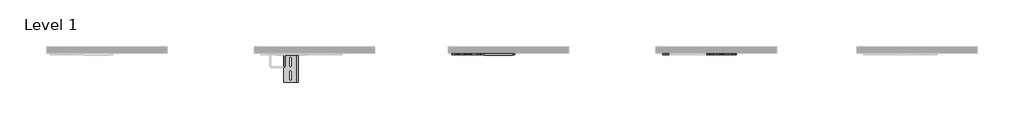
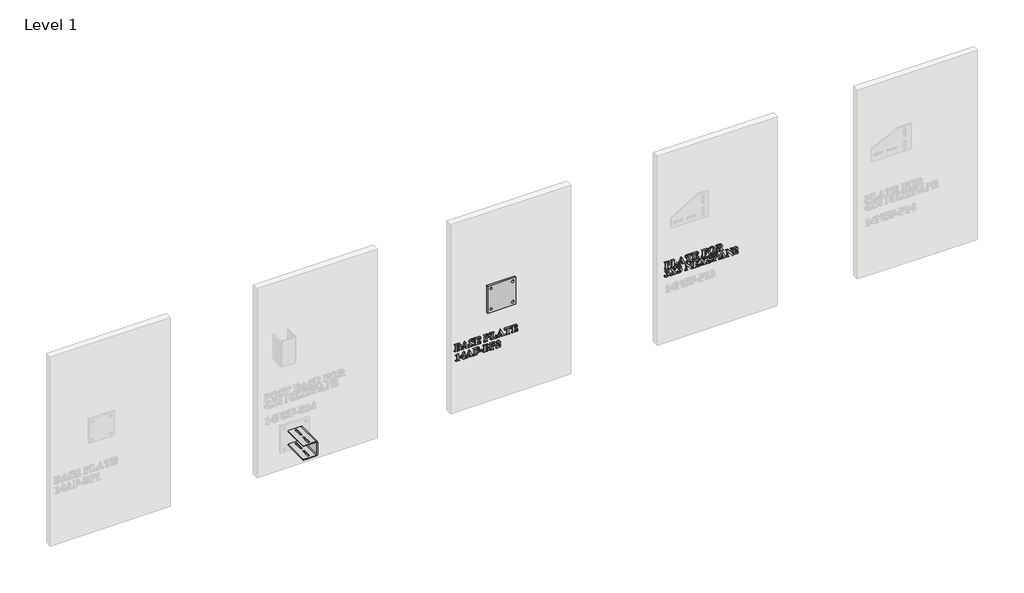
# One storey, part 13 of 21: 5 proxies.
"""IFC4 building model written with IfcOpenShell, lengths in millimetres."""

from ifc_helpers import new_model, si_unit, frame, origin, place, context, project, spatial, polyline, outline, extrude, transform, mapped, element, save
from components import generic_models_8fb2d385, part_bent_plate_f_part_bent_plate_f_7085e637

model = new_model("IFC4")

# Units and contexts
model_context = context("Model", 3, world=origin())
ifc_project = project(units=[si_unit("LENGTHUNIT", "METRE", prefix="MILLI")], contexts=[model_context])

# Site, building, storey
site = spatial("IfcSite", under=ifc_project)
building = spatial("IfcBuilding", under=site)
storey = spatial("IfcBuildingStorey", under=building, Name="Level 1", Elevation=0.0)

# Proxies
placement = place(None, origin())
element("IfcBuildingElementProxy", 1, Name="2\"\" Arial", ObjectType="2\"\" Arial", at=placement, inside=storey, context=model_context, shape_type="SweptSolid", body=[
    extrude(outline(polyline([(624.2127681, 20732.7890158), (625.1268914, 20746.043803), (630.022991, 20755.1781105), (638.6586857, 20758.4952699), (648.6032388, 20753.4468164), (652.5782899, 20736.7917676), (652.5782899, 20713.2877195), (650.8054448, 20713.2877195), (650.2029545, 20718.0730163), (648.5963136, 20719.8666369), (643.7140644, 20720.3791), (609.1435847, 20720.3791), (604.2751858, 20719.8666369), (602.6685449, 20718.0937918), (602.0522042, 20713.2877195), (600.2793591, 20713.2877195), (600.2793591, 20739.8803962), (602.0522042, 20739.8803962), (602.6546946, 20735.1089498), (604.2613354, 20733.3014788), (609.1435847, 20732.7890158), (624.2127681, 20732.7890158)]), holes=[polyline([(649.9190223, 20732.7890158), (649.9190223, 20734.5757112), (647.1628021, 20743.1975556), (638.4786311, 20746.0853541), (629.6421063, 20743.1975556), (626.7889337, 20734.9773714), (626.8720358, 20732.7890158), (649.9190223, 20732.7890158)])]), frame((0.0, -15490.3579358, 0.0), z_axis=(0.0, 1.0, 0.0), x_axis=(0.0, 0.0, 1.0)), (0.0, 0.0, 1.0), 12.7),
    extrude(outline(polyline([(619.7806553, 20809.9077782), (619.7806553, 20808.1349331), (610.1269597, 20804.3399365), (605.3416629, 20799.5892656), (603.8250493, 20792.7194908), (603.8250493, 20788.4120312), (604.1713081, 20783.7998638), (605.7848742, 20781.999318), (610.8333277, 20781.5422564), (643.7140644, 20781.5422564), (648.298531, 20781.9162159), (650.0436754, 20783.3289518), (650.8054448, 20786.597635), (650.8054448, 20788.6336368), (652.5782899, 20788.6336368), (652.5782899, 20762.0409601), (650.8054448, 20762.0409601), (650.8054448, 20763.7168528), (650.0990768, 20767.0686381), (648.4439597, 20768.7237552), (643.7140644, 20769.1323406), (609.1435847, 20769.1323406), (604.559118, 20768.7306804), (602.8139736, 20767.2348423), (602.0522042, 20763.7168528), (602.0522042, 20762.0409601), (600.2793591, 20762.0409601), (600.2793591, 20808.1349331), (619.7806553, 20809.9077782)])), frame((0.0, -15490.3579358, 0.0), z_axis=(0.0, 1.0, 0.0), x_axis=(0.0, 0.0, 1.0)), (0.0, 0.0, 1.0), 12.7),
    extrude(outline(polyline([(615.3485426, 20844.8660677), (608.7003734, 20847.7884921), (604.559118, 20849.1735273), (602.869375, 20848.3286558), (602.0522042, 20843.0101205), (600.2793591, 20843.0101205), (600.2793591, 20868.4116669), (602.0522042, 20868.4116669), (603.4095388, 20864.7136228), (610.9025794, 20860.28151), (653.4647125, 20840.6278599), (612.066009, 20821.8052309), (604.3375124, 20817.3384922), (602.0522042, 20812.7193997), (600.2793591, 20812.7193997), (600.2793591, 20830.4894019), (602.0522042, 20830.4894019), (602.9386268, 20825.3647715), (606.0272554, 20823.5919264), (610.0300072, 20824.6722539), (615.3485426, 20827.0822152), (615.3485426, 20844.8660677)]), holes=[polyline([(618.8942328, 20843.3148283), (618.8942328, 20828.6888561), (635.2376487, 20836.0987946), (618.8942328, 20843.3148283)])]), frame((0.0, -15490.3579358, 0.0), z_axis=(0.0, 1.0, 0.0), x_axis=(0.0, 0.0, 1.0)), (0.0, 0.0, 1.0), 12.7),
    extrude(outline(polyline([(652.5782899, 20918.05133), (652.5782899, 20871.9573571), (637.5091065, 20871.9573571), (637.5091065, 20873.7302022), (646.7195908, 20877.8299065), (649.0325997, 20885.2536955), (649.0325997, 20888.7993857), (609.1435847, 20888.7993857), (604.559118, 20888.3977255), (602.8139736, 20886.8741867), (602.0522042, 20883.3700475), (602.0522042, 20881.7080052), (600.2793591, 20881.7080052), (600.2793591, 20908.3006819), (602.0522042, 20908.3006819), (602.0522042, 20906.65249), (602.7585722, 20903.2868543), (604.4136893, 20901.6317372), (609.1435847, 20901.2093015), (649.0325997, 20901.2093015), (649.0325997, 20904.7549917), (648.3123814, 20909.6857172), (644.7874667, 20913.646918), (637.5091065, 20916.2784849), (637.5091065, 20918.05133), (652.5782899, 20918.05133)])), frame((0.0, -15490.3579358, 0.0), z_axis=(0.0, 1.0, 0.0), x_axis=(0.0, 0.0, 1.0)), (0.0, 0.0, 1.0), 12.7),
    extrude(outline(polyline([(649.0325997, 20942.8711616), (649.0325997, 20947.3032744), (648.3400821, 20955.3364788), (644.7320653, 20961.0289737), (636.6226839, 20964.145303), (636.6226839, 20965.9181481), (652.5782899, 20965.9181481), (652.5782899, 20923.3698654), (650.8054448, 20923.3698654), (650.8054448, 20925.045758), (649.7805187, 20928.896156), (647.827619, 20930.2811912), (643.7140644, 20930.4612458), (609.1435847, 20930.4612458), (604.559118, 20930.0595856), (602.8139736, 20928.5637475), (602.0522042, 20925.045758), (602.0522042, 20923.3698654), (600.2793591, 20923.3698654), (600.2793591, 20967.1785302), (616.8859317, 20968.1203541), (606.4427659, 20962.0054235), (602.9386268, 20950.6827604), (602.9386268, 20947.6633836), (603.5549675, 20944.5470543), (605.1339076, 20943.2243456), (610.4039667, 20942.8711616), (625.0991907, 20942.8711616), (624.0950401, 20947.878064), (620.1753904, 20950.9112912), (612.6892749, 20952.6218097), (612.6892749, 20954.3946548), (640.1683741, 20954.3946548), (640.1683741, 20952.6218097), (630.9024884, 20950.1148959), (627.7584584, 20942.8711616), (649.0325997, 20942.8711616)])), frame((0.0, -15490.3579358, 0.0), z_axis=(0.0, 1.0, 0.0), x_axis=(0.0, 0.0, 1.0)), (0.0, 0.0, 1.0), 12.7),
    extrude(outline(polyline([(649.0325997, 21014.6713887), (649.0325997, 21019.1035015), (648.4370346, 21027.6630193), (644.7251401, 21034.0757325), (636.6226839, 21036.8319526), (636.6226839, 21038.6047977), (652.5782899, 21038.6047977), (652.5782899, 20995.1700924), (650.8054448, 20995.1700924), (650.8054448, 20996.8459851), (650.0990768, 21000.1977704), (648.4439597, 21001.8528875), (643.7140644, 21002.2614729), (609.1435847, 21002.2614729), (604.559118, 21001.8598127), (602.8139736, 21000.3639746), (602.0522042, 20996.8459851), (602.0522042, 20995.1700924), (600.2793591, 20995.1700924), (600.2793591, 21021.7627691), (602.0522042, 21021.7627691), (602.0522042, 21020.1007268), (602.7585722, 21016.7558667), (604.4136893, 21015.0938244), (609.1435847, 21014.6713887), (625.0991907, 21014.6713887), (625.0991907, 21016.4442338), (622.6823042, 21023.3555597), (612.6892749, 21027.0813045), (612.6892749, 21028.8541496), (641.0547967, 21028.8541496), (641.0547967, 21027.0813045), (633.6725588, 21025.2253572), (629.7944602, 21021.7419936), (628.6448809, 21016.4442338), (628.6448809, 21014.6713887), (649.0325997, 21014.6713887)])), frame((0.0, -15490.3579358, 0.0), z_axis=(0.0, 1.0, 0.0), x_axis=(0.0, 0.0, 1.0)), (0.0, 0.0, 1.0), 12.7),
    extrude(outline(polyline([(653.4647125, 21071.0561735), (651.8788471, 21060.514324), (646.1794271, 21051.7695577), (637.4606302, 21045.8848892), (626.8166344, 21043.923333), (617.1733265, 21045.4295589), (608.9358294, 21049.9482364), (601.7786598, 21059.1656459), (599.3929366, 21071.5547862), (601.8929252, 21083.9127631), (609.392891, 21093.1197849), (626.8581854, 21098.8815315), (637.4969874, 21096.9494074), (646.2002026, 21091.1530349), (651.884041, 21082.2645712), (653.4647125, 21071.0561735)]), holes=[polyline([(650.8054448, 21071.5132351), (648.6863409, 21078.1267784), (641.4356814, 21082.8497486), (625.9440622, 21084.6987706), (611.8444034, 21082.8843745), (603.9774032, 21077.8151455), (602.0522042, 21071.4439833), (606.5120177, 21062.6213088), (626.2487699, 21058.1060939), (643.4924587, 21061.0285183), (648.9771983, 21065.4502433), (650.8054448, 21071.5132351)])]), frame((0.0, -15490.3579358, 0.0), z_axis=(0.0, 1.0, 0.0), x_axis=(0.0, 0.0, 1.0)), (0.0, 0.0, 1.0), 12.7),
    extrude(outline(polyline([(624.2127681, 21122.8149406), (624.2127681, 21126.249828), (600.2793591, 21143.0364551), (600.2793591, 21159.1582654), (602.0522042, 21159.1582654), (603.3956884, 21155.8895822), (607.7723998, 21152.7455522), (625.4592998, 21140.3356364), (628.9911397, 21147.2885133), (638.395529, 21151.1804624), (646.5326111, 21148.417317), (651.2902072, 21141.2843855), (652.5782899, 21127.4825093), (652.5782899, 21103.3136443), (650.8054448, 21103.3136443), (650.2029545, 21108.0989411), (648.5963136, 21109.8925617), (643.7140644, 21110.4050248), (609.1435847, 21110.4050248), (604.2751858, 21109.8925617), (602.6685449, 21108.1197166), (602.0522042, 21103.3136443), (600.2793591, 21103.3136443), (600.2793591, 21129.906321), (602.0522042, 21129.906321), (602.6546946, 21125.1210242), (604.2613354, 21123.3274036), (609.1435847, 21122.8149406), (624.2127681, 21122.8149406)]), holes=[polyline([(649.9190223, 21122.8149406), (649.9190223, 21126.9423456), (647.0450741, 21135.9727754), (638.160073, 21138.7705466), (631.4288018, 21137.2470078), (627.862336, 21133.0572762), (626.8720358, 21125.0171466), (626.8720358, 21122.8149406), (649.9190223, 21122.8149406)])]), frame((0.0, -15490.3579358, 0.0), z_axis=(0.0, 1.0, 0.0), x_axis=(0.0, 0.0, 1.0)), (0.0, 0.0, 1.0), 12.7),
    extrude(outline(polyline([(564.5485426, 20722.1519451), (558.3782106, 20734.0424727), (548.6206373, 20738.1075511), (542.8796662, 20736.0022975), (540.6151335, 20730.9607692), (543.7314628, 20723.7031846), (547.1524999, 20719.20182), (547.706514, 20716.7364573), (546.2176011, 20713.7101553), (542.6234346, 20712.401297), (537.9004645, 20714.6589044), (535.2965982, 20724.6034575), (536.8114805, 20733.779316), (541.3561274, 20740.8914719), (548.0648919, 20745.4517005), (556.0721269, 20746.9717767), (564.6177943, 20744.1324544), (570.3518402, 20735.8914947), (574.5554222, 20742.2765072), (579.5207736, 20744.312509), (586.4182491, 20740.6767915), (589.3683741, 20731.4455316), (586.9237869, 20721.4940533), (579.105263, 20715.0605646), (584.0498388, 20724.4511036), (581.6883537, 20730.39983), (576.0304847, 20732.7890158), (571.3282901, 20731.5078582), (567.8795523, 20728.4677058), (564.5485426, 20722.1519451)])), frame((0.0, -15490.3579358, 0.0), z_axis=(0.0, 1.0, 0.0), x_axis=(0.0, 0.0, 1.0)), (0.0, 0.0, 1.0), 12.7),
    extrude(outline(polyline([(566.5845444, 20784.5062318), (578.4681468, 20793.9937232), (584.2021927, 20799.0075508), (586.1481672, 20801.9715262), (586.7091065, 20805.6280193), (588.4819516, 20805.6280193), (588.4819516, 20786.1959748), (586.7091065, 20786.1959748), (586.2243441, 20789.6585629), (584.88086, 20791.3760066), (583.0110624, 20791.9715718), (575.9473826, 20787.7333639), (569.5069687, 20782.5810328), (579.146814, 20776.2514217), (584.3406962, 20773.3289974), (586.0304392, 20774.2154199), (586.7091065, 20778.6336823), (588.4819516, 20778.6336823), (588.4819516, 20753.0936324), (586.7091065, 20753.0936324), (585.9334867, 20755.8637029), (584.2021927, 20757.8997047), (579.0775623, 20761.6392999), (559.4377625, 20774.5478284), (546.8616425, 20764.4786222), (539.7425613, 20757.2764389), (537.9558659, 20751.8886518), (536.1830208, 20751.8886518), (536.1830208, 20772.2348195), (537.9558659, 20772.2348195), (538.1774715, 20768.9245853), (539.4655543, 20766.1891407), (541.4046036, 20765.2680922), (547.000146, 20768.8414832), (556.5291885, 20776.459177), (545.781315, 20783.5228568), (540.4627797, 20786.4868322), (538.8422884, 20785.6004096), (537.9558659, 20781.6807599), (536.1830208, 20781.6807599), (536.1830208, 20806.9715034), (537.9558659, 20806.9715034), (539.2993501, 20803.3704118), (545.6428115, 20798.2596318), (566.5845444, 20784.5062318)])), frame((0.0, -15490.3579358, 0.0), z_axis=(0.0, 1.0, 0.0), x_axis=(0.0, 0.0, 1.0)), (0.0, 0.0, 1.0), 12.7),
    extrude(outline(polyline([(564.5485426, 20817.8855812), (558.3782106, 20829.7761087), (548.6206373, 20833.8411872), (542.8796662, 20831.7359336), (540.6151335, 20826.6944053), (543.7314628, 20819.4368206), (547.1524999, 20814.9354561), (547.706514, 20812.4700934), (546.2176011, 20809.4437914), (542.6234346, 20808.1349331), (537.9004645, 20810.3925405), (535.2965982, 20820.3370936), (536.8114805, 20829.512952), (541.3561274, 20836.625108), (548.0648919, 20841.1853366), (556.0721269, 20842.7054127), (564.6177943, 20839.8660905), (570.3518402, 20831.6251308), (574.5554222, 20838.0101433), (579.5207736, 20840.0461451), (586.4182491, 20836.4104276), (589.3683741, 20827.1791677), (586.9237869, 20817.2276894), (579.105263, 20810.7942007), (584.0498388, 20820.1847397), (581.6883537, 20826.1334661), (576.0304847, 20828.5226518), (571.3282901, 20827.2414942), (567.8795523, 20824.2013419), (564.5485426, 20817.8855812)])), frame((0.0, -15490.3579358, 0.0), z_axis=(0.0, 1.0, 0.0), x_axis=(0.0, 0.0, 1.0)), (0.0, 0.0, 1.0), 12.7),
    extrude(outline(polyline([(588.4819516, 20886.61103), (588.4819516, 20868.1900612), (586.7091065, 20868.1900612), (586.1066161, 20871.8534795), (582.955661, 20875.5030473), (545.0472463, 20875.5030473), (539.5971326, 20873.9448827), (537.9558659, 20868.4116669), (536.1830208, 20868.4116669), (536.1830208, 20886.140118), (537.9558659, 20885.0459402), (539.4170781, 20880.8700589), (545.0472463, 20879.0487376), (578.4542964, 20879.0487376), (535.2965982, 20912.8712982), (535.2965982, 20914.5056398), (577.8448809, 20914.5056398), (583.2811442, 20915.1635316), (585.5664524, 20916.9987033), (586.7091065, 20921.5970203), (588.4819516, 20921.5970203), (588.4819516, 20903.8685691), (586.7091065, 20903.8685691), (584.4653494, 20909.6995675), (577.8448809, 20910.9599496), (557.4156111, 20910.9599496), (588.4819516, 20886.61103)])), frame((0.0, -15490.3579358, 0.0), z_axis=(0.0, 1.0, 0.0), x_axis=(0.0, 0.0, 1.0)), (0.0, 0.0, 1.0), 12.7),
    extrude(outline(polyline([(584.9362614, 20945.5304293), (584.9362614, 20949.9625421), (584.2437437, 20957.9957465), (580.6357269, 20963.6882413), (572.5263456, 20966.8045706), (572.5263456, 20968.5774157), (588.4819516, 20968.5774157), (588.4819516, 20926.029133), (586.7091065, 20926.029133), (586.7091065, 20927.7050257), (585.6841804, 20931.5554237), (583.7312807, 20932.9404589), (579.617726, 20933.1205135), (545.0472463, 20933.1205135), (540.4627797, 20932.7188533), (538.7176353, 20931.2230152), (537.9558659, 20927.7050257), (537.9558659, 20926.029133), (536.1830208, 20926.029133), (536.1830208, 20969.8377978), (552.7895933, 20970.7796218), (542.3464276, 20964.6646912), (538.8422884, 20953.3420281), (538.8422884, 20950.3226512), (539.4586291, 20947.2063219), (541.0375693, 20945.8836133), (546.3076284, 20945.5304293), (561.0028523, 20945.5304293), (559.9987018, 20950.5373317), (556.079052, 20953.5705589), (548.5929366, 20955.2810774), (548.5929366, 20957.0539225), (576.0720358, 20957.0539225), (576.0720358, 20955.2810774), (566.80615, 20952.7741636), (563.66212, 20945.5304293), (584.9362614, 20945.5304293)])), frame((0.0, -15490.3579358, 0.0), z_axis=(0.0, 1.0, 0.0), x_axis=(0.0, 0.0, 1.0)), (0.0, 0.0, 1.0), 12.7),
    extrude(outline(polyline([(566.5845444, 21008.7711385), (578.4681468, 21018.25863), (584.2021927, 21023.2724575), (586.1481672, 21026.236433), (586.7091065, 21029.892926), (588.4819516, 21029.892926), (588.4819516, 21010.4608815), (586.7091065, 21010.4608815), (586.2243441, 21013.9234696), (584.88086, 21015.6409134), (583.0110624, 21016.2364785), (575.9473826, 21011.9982707), (569.5069687, 21006.8459395), (579.146814, 21000.5163285), (584.3406962, 20997.5939041), (586.0304392, 20998.4803267), (586.7091065, 21002.8985891), (588.4819516, 21002.8985891), (588.4819516, 20977.3585392), (586.7091065, 20977.3585392), (585.9334867, 20980.1286097), (584.2021927, 20982.1646115), (579.0775623, 20985.9042067), (559.4377625, 20998.8127351), (546.8616425, 20988.7435289), (539.7425613, 20981.5413456), (537.9558659, 20976.1535585), (536.1830208, 20976.1535585), (536.1830208, 20996.4997263), (537.9558659, 20996.4997263), (538.1774715, 20993.189492), (539.4655543, 20990.4540474), (541.4046036, 20989.532999), (547.000146, 20993.1063899), (556.5291885, 21000.7240838), (545.781315, 21007.7877635), (540.4627797, 21010.7517389), (538.8422884, 21009.8653164), (537.9558659, 21005.9456666), (536.1830208, 21005.9456666), (536.1830208, 21031.2364102), (537.9558659, 21031.2364102), (539.2993501, 21027.6353186), (545.6428115, 21022.5245385), (566.5845444, 21008.7711385)])), frame((0.0, -15490.3579358, 0.0), z_axis=(0.0, 1.0, 0.0), x_axis=(0.0, 0.0, 1.0)), (0.0, 0.0, 1.0), 12.7),
    extrude(outline(polyline([(589.3683741, 21070.5160097), (589.3683741, 21068.7431646), (586.4320994, 21067.6351364), (585.8226839, 21066.0007948), (587.0622905, 21062.2404241), (588.7589586, 21057.6905834), (589.3683741, 21052.607504), (585.040139, 21040.6754254), (574.548497, 21035.94553), (567.9418789, 21037.5798716), (562.5056156, 21042.2612907), (556.5984403, 21053.1061167), (552.5541373, 21060.8623141), (549.2854542, 21064.1240721), (545.7259136, 21065.1974744), (540.2896503, 21062.5312815), (537.9558659, 21055.3637242), (542.2702507, 21044.511973), (554.7978944, 21037.7183751), (554.7978944, 21035.94553), (535.2965982, 21035.94553), (535.2965982, 21037.7183751), (537.9697162, 21039.5396965), (538.8422884, 21041.6795759), (537.9835666, 21044.7405038), (535.8575375, 21050.28757), (535.2965982, 21054.9759143), (539.9780173, 21068.0367966), (551.1691021, 21073.1752774), (560.2687837, 21070.5575608), (568.7174987, 21057.8706379), (573.2050128, 21048.7294053), (576.7645534, 21044.8097556), (579.8254813, 21043.923333), (584.6246284, 21046.3471447), (586.7091065, 21052.9260621), (582.5747763, 21062.9398669), (571.639923, 21068.7431646), (571.639923, 21070.5160097), (589.3683741, 21070.5160097)])), frame((0.0, -15490.3579358, 0.0), z_axis=(0.0, 1.0, 0.0), x_axis=(0.0, 0.0, 1.0)), (0.0, 0.0, 1.0), 12.7),
    extrude(outline(polyline([(560.1164298, 21096.2222639), (561.030553, 21109.4770512), (565.9266526, 21118.6113586), (574.5623474, 21121.928518), (584.5069004, 21116.8800645), (588.4819516, 21100.2250157), (588.4819516, 21076.7209676), (586.7091065, 21076.7209676), (586.1066161, 21081.5062644), (584.4999753, 21083.299885), (579.617726, 21083.8123481), (545.0472463, 21083.8123481), (540.1788474, 21083.299885), (538.5722066, 21081.5270399), (537.9558659, 21076.7209676), (536.1830208, 21076.7209676), (536.1830208, 21103.3136443), (537.9558659, 21103.3136443), (538.5583562, 21098.5421979), (540.1649971, 21096.7347269), (545.0472463, 21096.2222639), (560.1164298, 21096.2222639)]), holes=[polyline([(585.8226839, 21096.2222639), (585.8226839, 21098.0089593), (583.0664638, 21106.6308037), (574.3822928, 21109.5186022), (565.5457679, 21106.6308037), (562.6925953, 21098.4106195), (562.7756975, 21096.2222639), (585.8226839, 21096.2222639)])]), frame((0.0, -15490.3579358, 0.0), z_axis=(0.0, 1.0, 0.0), x_axis=(0.0, 0.0, 1.0)), (0.0, 0.0, 1.0), 12.7),
    extrude(outline(polyline([(551.2522042, 21156.000385), (544.604035, 21158.9228094), (540.4627797, 21160.3078446), (538.7730367, 21159.4629731), (537.9558659, 21154.1444378), (536.1830208, 21154.1444378), (536.1830208, 21179.5459842), (537.9558659, 21179.5459842), (539.3132004, 21175.8479401), (546.8062411, 21171.4158273), (589.3683741, 21151.7621772), (547.9696707, 21132.9395482), (540.241174, 21128.4728095), (537.9558659, 21123.853717), (536.1830208, 21123.853717), (536.1830208, 21141.6237192), (537.9558659, 21141.6237192), (538.8422884, 21136.4990888), (541.930917, 21134.7262437), (545.9336689, 21135.8065711), (551.2522042, 21138.2165325), (551.2522042, 21156.000385)]), holes=[polyline([(554.7978944, 21154.4491455), (554.7978944, 21139.8231734), (571.1413103, 21147.2331119), (554.7978944, 21154.4491455)])]), frame((0.0, -15490.3579358, 0.0), z_axis=(0.0, 1.0, 0.0), x_axis=(0.0, 0.0, 1.0)), (0.0, 0.0, 1.0), 12.7),
    extrude(outline(polyline([(588.4819516, 21199.5181924), (588.4819516, 21181.0972236), (586.7091065, 21181.0972236), (586.1066161, 21184.7606419), (582.955661, 21188.4102097), (545.0472463, 21188.4102097), (539.5971326, 21186.8520451), (537.9558659, 21181.3188293), (536.1830208, 21181.3188293), (536.1830208, 21199.0472804), (537.9558659, 21197.9531026), (539.4170781, 21193.7772213), (545.0472463, 21191.9558999), (578.4542964, 21191.9558999), (535.2965982, 21225.7784606), (535.2965982, 21227.4128022), (577.8448809, 21227.4128022), (583.2811442, 21228.0706939), (585.5664524, 21229.9058656), (586.7091065, 21234.5041827), (588.4819516, 21234.5041827), (588.4819516, 21216.7757315), (586.7091065, 21216.7757315), (584.4653494, 21222.6067299), (577.8448809, 21223.867112), (557.4156111, 21223.867112), (588.4819516, 21199.5181924)])), frame((0.0, -15490.3579358, 0.0), z_axis=(0.0, 1.0, 0.0), x_axis=(0.0, 0.0, 1.0)), (0.0, 0.0, 1.0), 12.7),
    extrude(outline(polyline([(536.1830208, 21268.5899), (551.2522042, 21270.2103913), (548.1635756, 21268.1120629), (547.1247992, 21266.076061), (546.8200914, 21260.7228998), (546.8200914, 21249.5595158), (566.3906394, 21266.2768912), (576.6260499, 21269.0746624), (582.5609259, 21267.1840892), (587.5470528, 21261.9555812), (589.3683741, 21254.5733433), (585.864235, 21244.5803141), (574.548497, 21239.5595613), (579.0152357, 21243.7285174), (580.5041486, 21249.3102094), (577.8241054, 21255.7852492), (571.0997593, 21258.4375917), (559.7286199, 21255.3351127), (536.1830208, 21237.1634503), (536.1830208, 21268.5899)])), frame((0.0, -15490.3579358, 0.0), z_axis=(0.0, 1.0, 0.0), x_axis=(0.0, 0.0, 1.0)), (0.0, 0.0, 1.0), 12.7),
])
element("IfcBuildingElementProxy", 2, Name="2\"\" Arial", ObjectType="2\"\" Arial", at=placement, inside=storey, context=model_context, shape_type="SweptSolid", body=[
    extrude(outline(polyline([(524.507993, 19146.4385935), (529.2517387, 19156.1061395), (536.059187, 19158.8485093), (542.9012611, 19156.6809292), (547.7350341, 19150.7529783), (549.3555253, 19137.9483275), (549.3555253, 19112.7545364), (547.5826802, 19112.7545364), (546.9801899, 19117.5398332), (545.373549, 19119.3334538), (540.4912997, 19119.8459169), (505.92082, 19119.8459169), (501.0524212, 19119.3334538), (499.4457803, 19117.5606087), (498.8294396, 19112.7545364), (497.0565945, 19112.7545364), (497.0565945, 19139.1117571), (501.6826122, 19155.9122346), (511.3363078, 19160.6213544), (520.3528873, 19156.4800991), (524.507993, 19146.4385935)]), holes=[polyline([(525.4221163, 19132.2558326), (546.6962576, 19132.2558326), (545.5397532, 19140.8707519), (542.0494644, 19144.9981569), (536.1838401, 19146.4385935), (530.28359, 19144.9773814), (526.6963487, 19140.7737994), (525.4221163, 19132.2558326)]), polyline([(522.7628486, 19132.2558326), (521.6548204, 19141.6048205), (517.5689664, 19145.5867969), (510.948498, 19146.4385935), (505.0967241, 19145.1505108), (501.0939722, 19141.4455415), (499.7158621, 19136.161632), (500.7823393, 19133.2392077), (503.9402196, 19132.2558326), (505.879269, 19132.2558326), (522.7628486, 19132.2558326)])]), frame((0.0, -15490.3579358, 0.0), z_axis=(0.0, 1.0, 0.0), x_axis=(0.0, 0.0, 1.0)), (0.0, 0.0, 1.0), 12.7),
    extrude(outline(polyline([(512.1257779, 19195.579644), (505.4776088, 19198.5020684), (501.3363534, 19199.8871036), (499.6466104, 19199.0422321), (498.8294396, 19193.7236968), (497.0565945, 19193.7236968), (497.0565945, 19219.1252432), (498.8294396, 19219.1252432), (500.1867741, 19215.4271991), (507.6798148, 19210.9950863), (550.2419479, 19191.3414362), (508.8432444, 19172.5188072), (501.1147477, 19168.0520685), (498.8294396, 19163.432976), (497.0565945, 19163.432976), (497.0565945, 19181.2029782), (498.8294396, 19181.2029782), (499.7158621, 19176.0783478), (502.8044907, 19174.3055027), (506.8072426, 19175.3858301), (512.1257779, 19177.7957915), (512.1257779, 19195.579644)]), holes=[polyline([(515.6714682, 19194.0284045), (515.6714682, 19179.4024324), (532.014884, 19186.8123709), (515.6714682, 19194.0284045)])]), frame((0.0, -15490.3579358, 0.0), z_axis=(0.0, 1.0, 0.0), x_axis=(0.0, 0.0, 1.0)), (0.0, 0.0, 1.0), 12.7),
    extrude(outline(polyline([(550.2419479, 19258.1278356), (550.2419479, 19256.3549905), (547.3056731, 19255.2469623), (546.6962576, 19253.6126207), (547.9358642, 19249.8522501), (549.6325323, 19245.3024093), (550.2419479, 19240.2193299), (545.9137127, 19228.2872513), (535.4220707, 19223.5573559), (528.8154526, 19225.1916975), (523.3791893, 19229.8731167), (517.472014, 19240.7179426), (513.4277111, 19248.47414), (510.1590279, 19251.735898), (506.5994873, 19252.8093003), (501.163224, 19250.1431075), (498.8294396, 19242.9755501), (503.1438244, 19232.1237989), (515.6714682, 19225.3302011), (515.6714682, 19223.5573559), (496.1701719, 19223.5573559), (496.1701719, 19225.3302011), (498.8432899, 19227.1515224), (499.7158621, 19229.2914019), (498.8571403, 19232.3523297), (496.7311112, 19237.8993959), (496.1701719, 19242.5877402), (500.851591, 19255.6486226), (512.0426758, 19260.7871033), (521.1423574, 19258.1693867), (529.5910724, 19245.4824639), (534.0785866, 19236.3412312), (537.6381271, 19232.4215815), (540.699055, 19231.535159), (545.4982021, 19233.9589706), (547.5826802, 19240.537888), (543.44835, 19250.5516929), (532.5134967, 19256.3549905), (532.5134967, 19258.1278356), (550.2419479, 19258.1278356)])), frame((0.0, -15490.3579358, 0.0), z_axis=(0.0, 1.0, 0.0), x_axis=(0.0, 0.0, 1.0)), (0.0, 0.0, 1.0), 12.7),
    extrude(outline(polyline([(545.8098351, 19284.7205123), (545.8098351, 19289.1526251), (545.1173174, 19297.1858295), (541.5093006, 19302.8783244), (533.3999193, 19305.9946537), (533.3999193, 19307.7674988), (549.3555253, 19307.7674988), (549.3555253, 19265.2192161), (547.5826802, 19265.2192161), (547.5826802, 19266.8951087), (546.5577541, 19270.7455067), (544.6048544, 19272.130542), (540.4912997, 19272.3105965), (505.92082, 19272.3105965), (501.3363534, 19271.9089363), (499.591209, 19270.4130983), (498.8294396, 19266.8951087), (498.8294396, 19265.2192161), (497.0565945, 19265.2192161), (497.0565945, 19309.0278809), (513.6631671, 19309.9697048), (503.2200013, 19303.8547742), (499.7158621, 19292.5321111), (499.7158621, 19289.5127343), (500.3322028, 19286.396405), (501.911143, 19285.0736963), (507.1812021, 19284.7205123), (521.876426, 19284.7205123), (520.8722755, 19289.7274147), (516.9526258, 19292.7606419), (509.4665103, 19294.4711605), (509.4665103, 19296.2440056), (536.9456095, 19296.2440056), (536.9456095, 19294.4711605), (527.6797237, 19291.9642467), (524.5356937, 19284.7205123), (545.8098351, 19284.7205123)])), frame((0.0, -15490.3579358, 0.0), z_axis=(0.0, 1.0, 0.0), x_axis=(0.0, 0.0, 1.0)), (0.0, 0.0, 1.0), 12.7),
    extrude(outline(polyline([(520.9900035, 19355.6343168), (521.9041268, 19368.8891041), (526.8002263, 19378.0234116), (535.4359211, 19381.340571), (545.3804741, 19376.2921175), (549.3555253, 19359.6370687), (549.3555253, 19336.1330206), (547.5826802, 19336.1330206), (546.9801899, 19340.9183174), (545.373549, 19342.711938), (540.4912997, 19343.224401), (505.92082, 19343.224401), (501.0524212, 19342.711938), (499.4457803, 19340.9390929), (498.8294396, 19336.1330206), (497.0565945, 19336.1330206), (497.0565945, 19362.7256973), (498.8294396, 19362.7256973), (499.4319299, 19357.9542509), (501.0385708, 19356.1467799), (505.92082, 19355.6343168), (520.9900035, 19355.6343168)]), holes=[polyline([(546.6962576, 19355.6343168), (546.6962576, 19357.4210123), (543.9400375, 19366.0428567), (535.2558665, 19368.9306552), (526.4193417, 19366.0428567), (523.566169, 19357.8226725), (523.6492712, 19355.6343168), (546.6962576, 19355.6343168)])]), frame((0.0, -15490.3579358, 0.0), z_axis=(0.0, 1.0, 0.0), x_axis=(0.0, 0.0, 1.0)), (0.0, 0.0, 1.0), 12.7),
    extrude(outline(polyline([(516.5578907, 19432.7530792), (516.5578907, 19430.9802341), (506.9041951, 19427.1852376), (502.1188983, 19422.4345667), (500.6022847, 19415.5647919), (500.6022847, 19411.2573322), (500.9485435, 19406.6451649), (502.5621096, 19404.8446191), (507.610563, 19404.3875574), (540.4912997, 19404.3875574), (545.0757664, 19404.761517), (546.8209108, 19406.1742529), (547.5826802, 19409.4429361), (547.5826802, 19411.4789379), (549.3555253, 19411.4789379), (549.3555253, 19384.8862612), (547.5826802, 19384.8862612), (547.5826802, 19386.5621538), (546.8763122, 19389.9139391), (545.2211951, 19391.5690563), (540.4912997, 19391.9776416), (505.92082, 19391.9776416), (501.3363534, 19391.5759814), (499.591209, 19390.0801434), (498.8294396, 19386.5621538), (498.8294396, 19384.8862612), (497.0565945, 19384.8862612), (497.0565945, 19430.9802341), (516.5578907, 19432.7530792)])), frame((0.0, -15490.3579358, 0.0), z_axis=(0.0, 1.0, 0.0), x_axis=(0.0, 0.0, 1.0)), (0.0, 0.0, 1.0), 12.7),
    extrude(outline(polyline([(512.1257779, 19467.7113688), (505.4776088, 19470.6337932), (501.3363534, 19472.0188284), (499.6466104, 19471.1739569), (498.8294396, 19465.8554216), (497.0565945, 19465.8554216), (497.0565945, 19491.256968), (498.8294396, 19491.256968), (500.1867741, 19487.5589239), (507.6798148, 19483.1268111), (550.2419479, 19463.473161), (508.8432444, 19444.650532), (501.1147477, 19440.1837933), (498.8294396, 19435.5647008), (497.0565945, 19435.5647008), (497.0565945, 19453.334703), (498.8294396, 19453.334703), (499.7158621, 19448.2100726), (502.8044907, 19446.4372275), (506.8072426, 19447.5175549), (512.1257779, 19449.9275163), (512.1257779, 19467.7113688)]), holes=[polyline([(515.6714682, 19466.1601293), (515.6714682, 19451.5341572), (532.014884, 19458.9440957), (515.6714682, 19466.1601293)])]), frame((0.0, -15490.3579358, 0.0), z_axis=(0.0, 1.0, 0.0), x_axis=(0.0, 0.0, 1.0)), (0.0, 0.0, 1.0), 12.7),
    extrude(outline(polyline([(549.3555253, 19540.8966311), (549.3555253, 19494.8026582), (534.2863418, 19494.8026582), (534.2863418, 19496.5755033), (543.4968262, 19500.6752076), (545.8098351, 19508.0989965), (545.8098351, 19511.6446868), (505.92082, 19511.6446868), (501.3363534, 19511.2430265), (499.591209, 19509.7194878), (498.8294396, 19506.2153486), (498.8294396, 19504.5533063), (497.0565945, 19504.5533063), (497.0565945, 19531.145983), (498.8294396, 19531.145983), (498.8294396, 19529.4977911), (499.5358076, 19526.1321554), (501.1909247, 19524.4770383), (505.92082, 19524.0546025), (545.8098351, 19524.0546025), (545.8098351, 19527.6002928), (545.0896167, 19532.5310182), (541.564702, 19536.492219), (534.2863418, 19539.123786), (534.2863418, 19540.8966311), (549.3555253, 19540.8966311)])), frame((0.0, -15490.3579358, 0.0), z_axis=(0.0, 1.0, 0.0), x_axis=(0.0, 0.0, 1.0)), (0.0, 0.0, 1.0), 12.7),
    extrude(outline(polyline([(545.8098351, 19565.7164627), (545.8098351, 19570.1485755), (545.1173174, 19578.1817799), (541.5093006, 19583.8742747), (533.3999193, 19586.990604), (533.3999193, 19588.7634492), (549.3555253, 19588.7634492), (549.3555253, 19546.2151665), (547.5826802, 19546.2151665), (547.5826802, 19547.8910591), (546.5577541, 19551.7414571), (544.6048544, 19553.1264923), (540.4912997, 19553.3065469), (505.92082, 19553.3065469), (501.3363534, 19552.9048867), (499.591209, 19551.4090486), (498.8294396, 19547.8910591), (498.8294396, 19546.2151665), (497.0565945, 19546.2151665), (497.0565945, 19590.0238312), (513.6631671, 19590.9656552), (503.2200013, 19584.8507246), (499.7158621, 19573.5280615), (499.7158621, 19570.5086846), (500.3322028, 19567.3923553), (501.911143, 19566.0696467), (507.1812021, 19565.7164627), (521.876426, 19565.7164627), (520.8722755, 19570.7233651), (516.9526258, 19573.7565923), (509.4665103, 19575.4671108), (509.4665103, 19577.2399559), (536.9456095, 19577.2399559), (536.9456095, 19575.4671108), (527.6797237, 19572.960197), (524.5356937, 19565.7164627), (545.8098351, 19565.7164627)])), frame((0.0, -15490.3579358, 0.0), z_axis=(0.0, 1.0, 0.0), x_axis=(0.0, 0.0, 1.0)), (0.0, 0.0, 1.0), 12.7),
])
element("IfcBuildingElementProxy", 3, Name="2\"\" Arial", ObjectType="2\"\" Arial", at=placement, inside=storey, context=model_context, shape_type="SweptSolid", body=[
    extrude(outline(polyline([(468.5964659, 19141.5213318), (459.7322403, 19121.7638041), (457.9593952, 19122.428621), (459.1920765, 19126.9853869), (458.5549603, 19129.0629398), (457.0383467, 19130.2956212), (452.6408598, 19130.6280296), (426.0481832, 19130.6280296), (419.9817288, 19130.1086414), (417.9318766, 19128.1211158), (417.1839576, 19121.7638041), (415.4111125, 19121.7638041), (415.4111125, 19150.1293259), (417.1839576, 19148.8966445), (418.0011284, 19144.4229807), (420.106382, 19142.587809), (426.0481832, 19142.1515229), (468.5964659, 19141.5213318)])), frame((0.0, -15490.3579358, 0.0), z_axis=(0.0, 1.0, 0.0), x_axis=(0.0, 0.0, 1.0)), (0.0, 0.0, 1.0), 12.7),
    extrude(outline(polyline([(434.9124087, 19158.9935514), (426.9346057, 19158.9935514), (426.9346057, 19177.6084251), (415.4111125, 19177.6084251), (415.4111125, 19189.1319184), (426.9346057, 19189.1319184), (426.9346057, 19193.5640311), (434.9124087, 19193.5640311), (434.9124087, 19189.1319184), (468.5964659, 19189.1319184), (468.5964659, 19184.0211383), (434.9124087, 19158.9935514)]), holes=[polyline([(434.9124087, 19161.6805198), (456.3389039, 19177.6084251), (434.9124087, 19177.6084251), (434.9124087, 19161.6805198)])]), frame((0.0, -15490.3579358, 0.0), z_axis=(0.0, 1.0, 0.0), x_axis=(0.0, 0.0, 1.0)), (0.0, 0.0, 1.0), 12.7),
    extrude(outline(polyline([(430.4802959, 19229.4087433), (423.8321268, 19232.3311676), (419.6908714, 19233.7162029), (418.0011284, 19232.8713314), (417.1839576, 19227.552796), (415.4111125, 19227.552796), (415.4111125, 19252.9543424), (417.1839576, 19252.9543424), (418.5412921, 19249.2562983), (426.0343328, 19244.8241855), (468.5964659, 19225.1705354), (427.1977624, 19206.3479064), (419.4692657, 19201.8811678), (417.1839576, 19197.2620752), (415.4111125, 19197.2620752), (415.4111125, 19215.0320774), (417.1839576, 19215.0320774), (418.0703801, 19209.907447), (421.1590087, 19208.1346019), (425.1617606, 19209.2149294), (430.4802959, 19211.6248907), (430.4802959, 19229.4087433)]), holes=[polyline([(434.0259862, 19227.8575038), (434.0259862, 19213.2315316), (450.369402, 19220.6414702), (434.0259862, 19227.8575038)])]), frame((0.0, -15490.3579358, 0.0), z_axis=(0.0, 1.0, 0.0), x_axis=(0.0, 0.0, 1.0)), (0.0, 0.0, 1.0), 12.7),
    extrude(outline(polyline([(464.1643531, 19275.1149063), (464.1643531, 19279.5470191), (463.5687879, 19288.1065369), (459.8568935, 19294.5192501), (451.7544373, 19297.2754702), (451.7544373, 19299.0483153), (467.7100433, 19299.0483153), (467.7100433, 19255.6136101), (465.9371982, 19255.6136101), (465.9371982, 19257.2895027), (465.2308302, 19260.641288), (463.5757131, 19262.2964051), (458.8458177, 19262.7049905), (424.275338, 19262.7049905), (419.6908714, 19262.3033303), (417.945727, 19260.8074922), (417.1839576, 19257.2895027), (417.1839576, 19255.6136101), (415.4111125, 19255.6136101), (415.4111125, 19282.2062868), (417.1839576, 19282.2062868), (417.1839576, 19280.5442445), (417.8903256, 19277.1993844), (419.5454427, 19275.5373421), (424.275338, 19275.1149063), (440.2309441, 19275.1149063), (440.2309441, 19276.8877514), (437.8140576, 19283.7990773), (427.8210283, 19287.5248221), (427.8210283, 19289.2976672), (456.1865501, 19289.2976672), (456.1865501, 19287.5248221), (448.8043122, 19285.6688749), (444.9262135, 19282.1855112), (443.7766343, 19276.8877514), (443.7766343, 19275.1149063), (464.1643531, 19275.1149063)])), frame((0.0, -15490.3579358, 0.0), z_axis=(0.0, 1.0, 0.0), x_axis=(0.0, 0.0, 1.0)), (0.0, 0.0, 1.0), 12.7),
    extrude(outline(polyline([(19324.7545695, -15490.3579358), (19302.5940056, -15490.3579358), (19302.5940056, -15477.6579358), (19324.7545695, -15477.6579358), (19324.7545695, -15490.3579358)])), frame((0.0, 0.0, 429.5938734), z_axis=(0.0, 0.0, 1.0), x_axis=(1.0, 0.0, 0.0)), (0.0, 0.0, 1.0), 7.977803),
    extrude(outline(polyline([(442.862511, 19363.757162), (447.6062567, 19373.424708), (454.413705, 19376.1670777), (461.2557791, 19373.9994976), (466.0895521, 19368.0715467), (467.7100433, 19355.2668959), (467.7100433, 19330.0731048), (465.9371982, 19330.0731048), (465.3347079, 19334.8584016), (463.728067, 19336.6520222), (458.8458177, 19337.1644853), (424.275338, 19337.1644853), (419.4069392, 19336.6520222), (417.8002983, 19334.8791771), (417.1839576, 19330.0731048), (415.4111125, 19330.0731048), (415.4111125, 19356.4303255), (420.0371302, 19373.230803), (429.6908258, 19377.9399229), (438.7074053, 19373.7986675), (442.862511, 19363.757162)]), holes=[polyline([(443.7766343, 19349.574401), (465.0507756, 19349.574401), (463.8942712, 19358.1893203), (460.4039824, 19362.3167253), (454.5383581, 19363.757162), (448.638108, 19362.2959498), (445.0508667, 19358.0923678), (443.7766343, 19349.574401)]), polyline([(441.1173666, 19349.574401), (440.0093384, 19358.9233889), (435.9234844, 19362.9053653), (429.303016, 19363.757162), (423.4512421, 19362.4690792), (419.4484902, 19358.7641099), (418.0703801, 19353.4802004), (419.1368573, 19350.5577761), (422.2947376, 19349.574401), (424.233787, 19349.574401), (441.1173666, 19349.574401)])]), frame((0.0, -15490.3579358, 0.0), z_axis=(0.0, 1.0, 0.0), x_axis=(0.0, 0.0, 1.0)), (0.0, 0.0, 1.0), 12.7),
    extrude(outline(polyline([(439.3445215, 19400.9869093), (440.2586448, 19414.2416966), (445.1547443, 19423.376004), (453.7904391, 19426.6931635), (463.7349921, 19421.64471), (467.7100433, 19404.9896612), (467.7100433, 19381.4856131), (465.9371982, 19381.4856131), (465.3347079, 19386.2709098), (463.728067, 19388.0645305), (458.8458177, 19388.5769935), (424.275338, 19388.5769935), (419.4069392, 19388.0645305), (417.8002983, 19386.2916854), (417.1839576, 19381.4856131), (415.4111125, 19381.4856131), (415.4111125, 19408.0782898), (417.1839576, 19408.0782898), (417.7864479, 19403.3068434), (419.3930888, 19401.4993724), (424.275338, 19400.9869093), (439.3445215, 19400.9869093)]), holes=[polyline([(465.0507756, 19400.9869093), (465.0507756, 19402.7736048), (462.2945555, 19411.3954492), (453.6103845, 19414.2832477), (444.7738597, 19411.3954492), (441.920687, 19403.175265), (442.0037892, 19400.9869093), (465.0507756, 19400.9869093)])]), frame((0.0, -15490.3579358, 0.0), z_axis=(0.0, 1.0, 0.0), x_axis=(0.0, 0.0, 1.0)), (0.0, 0.0, 1.0), 12.7),
    extrude(outline(polyline([(415.4111125, 19459.8924583), (430.4802959, 19461.5129495), (427.3916673, 19459.4146211), (426.3528909, 19457.3786193), (426.0481832, 19452.0254581), (426.0481832, 19440.862074), (445.6187312, 19457.5794494), (455.8541416, 19460.3772206), (461.7890176, 19458.4866475), (466.7751445, 19453.2581394), (468.5964659, 19445.8759016), (465.0923267, 19435.8828723), (453.7765887, 19430.8621195), (458.2433274, 19435.0310756), (459.7322403, 19440.6127677), (457.0521971, 19447.0878074), (450.327851, 19449.7401499), (438.9567116, 19446.637671), (415.4111125, 19428.4660086), (415.4111125, 19459.8924583)])), frame((0.0, -15490.3579358, 0.0), z_axis=(0.0, 1.0, 0.0), x_axis=(0.0, 0.0, 1.0)), (0.0, 0.0, 1.0), 12.7),
])
generic_models_shape = generic_models_8fb2d385(model_context)
element("IfcBuildingElementProxy", 4, Name="14AF-BP1 : 14AF-BP2", ObjectType="14AF-BP1 : 14AF-BP2", at=placement, inside=storey, context=model_context, shape_type="MappedRepresentation", body=[
    mapped(generic_models_shape, transform((19467.9187481, -15477.6579358, 831.7597766), x_axis=(1.0, 0.0, 0.0), y_axis=(0.0, 0.0, 1.0), z_axis=(0.0, -1.0, 0.0))),
])
part_bent_plate_f_part_bent_plate_f_shape = part_bent_plate_f_part_bent_plate_f_7085e637(model_context)
element("IfcBuildingElementProxy", 5, Name="Part Bent Plate F : Part Bent Plate F", ObjectType="Part Bent Plate F : Part Bent Plate F", at=placement, inside=storey, context=model_context, shape_type="MappedRepresentation", body=[
    mapped(part_bent_plate_f_part_bent_plate_f_shape, transform((17893.1187481, -15493.5329358, 254.0), x_axis=(0.0, 0.0, 1.0), y_axis=(-1.0, 0.0, 0.0), z_axis=(0.0, -1.0, 0.0))),
])

save(model, "model.ifc")
